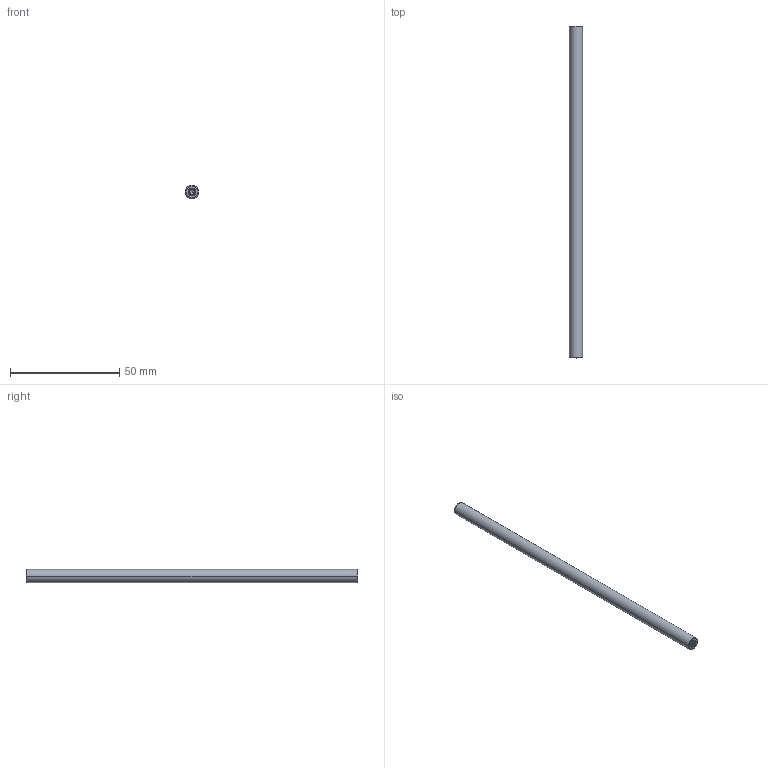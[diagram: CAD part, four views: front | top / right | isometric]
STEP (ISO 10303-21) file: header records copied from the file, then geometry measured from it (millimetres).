
FILE_DESCRIPTION((''),'2;1');
FILE_NAME('PCM-S_152','2022-01-14T',('si'),(''),'CREO PARAMETRIC BY PTC INC, 2017300','CREO PARAMETRIC BY PTC INC, 2017300','');
FILE_SCHEMA(('CONFIG_CONTROL_DESIGN'));
Length unit declared in the file: millimetre
Products named in the file (1): PCM-S_152
Bounding box: 6 x 152 x 6 mm (x, y, z)
Volume: 4204.7 mm3; surface area: 3126.2 mm2
Topology: 1 solids, 1 shells, 94 faces, 258 edges, 164 vertices
Faces by surface type: cylinder 56, bspline 24, cone 12, plane 2
Entity records: 6743 total; most frequent: CARTESIAN_POINT 4691, ORIENTED_EDGE 508, DIRECTION 268, EDGE_CURVE 254, VERTEX_POINT 164, B_SPLINE_CURVE_WITH_KNOTS 146, EDGE_LOOP 96, FACE_OUTER_BOUND 94
